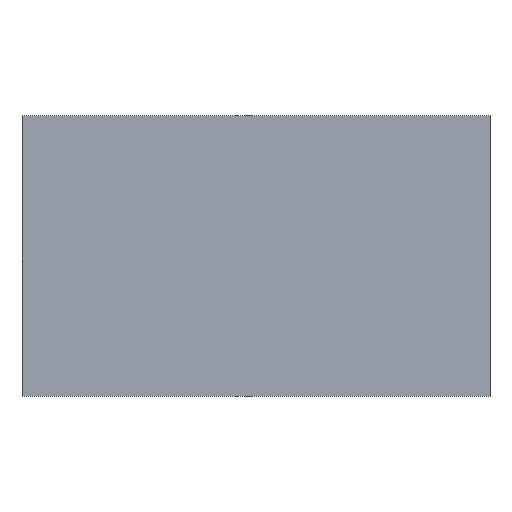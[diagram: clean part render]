
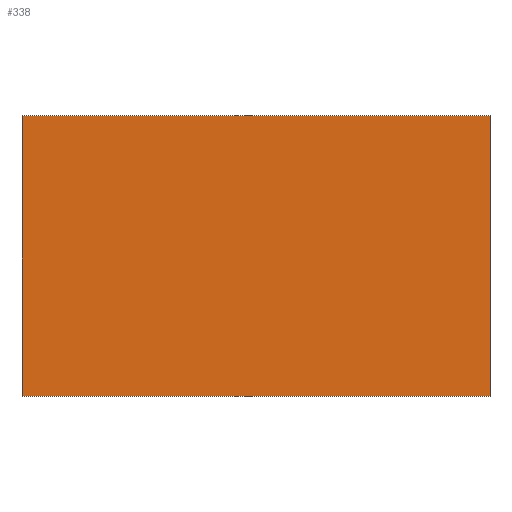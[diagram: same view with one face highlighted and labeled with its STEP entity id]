
A CAD part, top view. The second image highlights one B-rep face of the part: STEP entity #338.
In plain terms, the highlighted planar face has unit normal (0, 0, 1).
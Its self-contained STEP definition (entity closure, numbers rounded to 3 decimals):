
#24 = VERTEX_POINT('',#25);
#25 = CARTESIAN_POINT('',(-25.5,-15.5,-12.45));
#32 = PLANE('',#33);
#33 = AXIS2_PLACEMENT_3D('',#34,#35,#36);
#34 = CARTESIAN_POINT('',(-25.5,-15.5,-12.55));
#35 = DIRECTION('',(1.,0.,-0.));
#36 = DIRECTION('',(0.,0.,1.));
#44 = PLANE('',#45);
#45 = AXIS2_PLACEMENT_3D('',#46,#47,#48);
#46 = CARTESIAN_POINT('',(-25.5,-15.5,-12.55));
#47 = DIRECTION('',(-0.,1.,0.));
#48 = DIRECTION('',(0.,0.,1.));
#85 = VERTEX_POINT('',#86);
#86 = CARTESIAN_POINT('',(-25.5,-12.5,-12.45));
#100 = PLANE('',#101);
#101 = AXIS2_PLACEMENT_3D('',#102,#103,#104);
#102 = CARTESIAN_POINT('',(-25.5,-12.5,-12.55));
#103 = DIRECTION('',(-0.,1.,0.));
#104 = DIRECTION('',(0.,0.,1.));
#112 = EDGE_CURVE('',#24,#85,#113,.T.);
#113 = SURFACE_CURVE('',#114,(#118,#125),.PCURVE_S1.);
#114 = LINE('',#115,#116);
#115 = CARTESIAN_POINT('',(-25.5,-15.5,-12.45));
#116 = VECTOR('',#117,1.);
#117 = DIRECTION('',(-0.,1.,0.));
#118 = PCURVE('',#32,#119);
#119 = DEFINITIONAL_REPRESENTATION('',(#120),#124);
#120 = LINE('',#121,#122);
#121 = CARTESIAN_POINT('',(0.1,0.));
#122 = VECTOR('',#123,1.);
#123 = DIRECTION('',(0.,-1.));
#124 = ( GEOMETRIC_REPRESENTATION_CONTEXT(2) 
PARAMETRIC_REPRESENTATION_CONTEXT() REPRESENTATION_CONTEXT('2D SPACE',''
  ) );
#125 = PCURVE('',#126,#131);
#126 = PLANE('',#127);
#127 = AXIS2_PLACEMENT_3D('',#128,#129,#130);
#128 = CARTESIAN_POINT('',(-25.5,-15.5,-12.45));
#129 = DIRECTION('',(0.,0.,1.));
#130 = DIRECTION('',(1.,0.,-0.));
#131 = DEFINITIONAL_REPRESENTATION('',(#132),#136);
#132 = LINE('',#133,#134);
#133 = CARTESIAN_POINT('',(0.,0.));
#134 = VECTOR('',#135,1.);
#135 = DIRECTION('',(0.,1.));
#136 = ( GEOMETRIC_REPRESENTATION_CONTEXT(2) 
PARAMETRIC_REPRESENTATION_CONTEXT() REPRESENTATION_CONTEXT('2D SPACE',''
  ) );
#144 = VERTEX_POINT('',#145);
#145 = CARTESIAN_POINT('',(-20.5,-15.5,-12.45));
#152 = PLANE('',#153);
#153 = AXIS2_PLACEMENT_3D('',#154,#155,#156);
#154 = CARTESIAN_POINT('',(-20.5,-15.5,-12.55));
#155 = DIRECTION('',(1.,0.,-0.));
#156 = DIRECTION('',(0.,0.,1.));
#195 = VERTEX_POINT('',#196);
#196 = CARTESIAN_POINT('',(-20.5,-12.5,-12.45));
#217 = EDGE_CURVE('',#144,#195,#218,.T.);
#218 = SURFACE_CURVE('',#219,(#223,#230),.PCURVE_S1.);
#219 = LINE('',#220,#221);
#220 = CARTESIAN_POINT('',(-20.5,-15.5,-12.45));
#221 = VECTOR('',#222,1.);
#222 = DIRECTION('',(-0.,1.,0.));
#223 = PCURVE('',#152,#224);
#224 = DEFINITIONAL_REPRESENTATION('',(#225),#229);
#225 = LINE('',#226,#227);
#226 = CARTESIAN_POINT('',(0.1,0.));
#227 = VECTOR('',#228,1.);
#228 = DIRECTION('',(0.,-1.));
#229 = ( GEOMETRIC_REPRESENTATION_CONTEXT(2) 
PARAMETRIC_REPRESENTATION_CONTEXT() REPRESENTATION_CONTEXT('2D SPACE',''
  ) );
#230 = PCURVE('',#126,#231);
#231 = DEFINITIONAL_REPRESENTATION('',(#232),#236);
#232 = LINE('',#233,#234);
#233 = CARTESIAN_POINT('',(5.,0.));
#234 = VECTOR('',#235,1.);
#235 = DIRECTION('',(0.,1.));
#236 = ( GEOMETRIC_REPRESENTATION_CONTEXT(2) 
PARAMETRIC_REPRESENTATION_CONTEXT() REPRESENTATION_CONTEXT('2D SPACE',''
  ) );
#263 = EDGE_CURVE('',#24,#144,#264,.T.);
#264 = SURFACE_CURVE('',#265,(#269,#276),.PCURVE_S1.);
#265 = LINE('',#266,#267);
#266 = CARTESIAN_POINT('',(-25.5,-15.5,-12.45));
#267 = VECTOR('',#268,1.);
#268 = DIRECTION('',(1.,0.,-0.));
#269 = PCURVE('',#44,#270);
#270 = DEFINITIONAL_REPRESENTATION('',(#271),#275);
#271 = LINE('',#272,#273);
#272 = CARTESIAN_POINT('',(0.1,0.));
#273 = VECTOR('',#274,1.);
#274 = DIRECTION('',(0.,1.));
#275 = ( GEOMETRIC_REPRESENTATION_CONTEXT(2) 
PARAMETRIC_REPRESENTATION_CONTEXT() REPRESENTATION_CONTEXT('2D SPACE',''
  ) );
#276 = PCURVE('',#126,#277);
#277 = DEFINITIONAL_REPRESENTATION('',(#278),#282);
#278 = LINE('',#279,#280);
#279 = CARTESIAN_POINT('',(0.,0.));
#280 = VECTOR('',#281,1.);
#281 = DIRECTION('',(1.,0.));
#282 = ( GEOMETRIC_REPRESENTATION_CONTEXT(2) 
PARAMETRIC_REPRESENTATION_CONTEXT() REPRESENTATION_CONTEXT('2D SPACE',''
  ) );
#310 = EDGE_CURVE('',#85,#195,#311,.T.);
#311 = SURFACE_CURVE('',#312,(#316,#323),.PCURVE_S1.);
#312 = LINE('',#313,#314);
#313 = CARTESIAN_POINT('',(-25.5,-12.5,-12.45));
#314 = VECTOR('',#315,1.);
#315 = DIRECTION('',(1.,0.,-0.));
#316 = PCURVE('',#100,#317);
#317 = DEFINITIONAL_REPRESENTATION('',(#318),#322);
#318 = LINE('',#319,#320);
#319 = CARTESIAN_POINT('',(0.1,0.));
#320 = VECTOR('',#321,1.);
#321 = DIRECTION('',(0.,1.));
#322 = ( GEOMETRIC_REPRESENTATION_CONTEXT(2) 
PARAMETRIC_REPRESENTATION_CONTEXT() REPRESENTATION_CONTEXT('2D SPACE',''
  ) );
#323 = PCURVE('',#126,#324);
#324 = DEFINITIONAL_REPRESENTATION('',(#325),#329);
#325 = LINE('',#326,#327);
#326 = CARTESIAN_POINT('',(0.,3.));
#327 = VECTOR('',#328,1.);
#328 = DIRECTION('',(1.,0.));
#329 = ( GEOMETRIC_REPRESENTATION_CONTEXT(2) 
PARAMETRIC_REPRESENTATION_CONTEXT() REPRESENTATION_CONTEXT('2D SPACE',''
  ) );
#338 = ADVANCED_FACE('',(#339),#126,.T.);
#339 = FACE_BOUND('',#340,.T.);
#340 = EDGE_LOOP('',(#341,#342,#343,#344));
#341 = ORIENTED_EDGE('',*,*,#112,.F.);
#342 = ORIENTED_EDGE('',*,*,#263,.T.);
#343 = ORIENTED_EDGE('',*,*,#217,.T.);
#344 = ORIENTED_EDGE('',*,*,#310,.F.);
